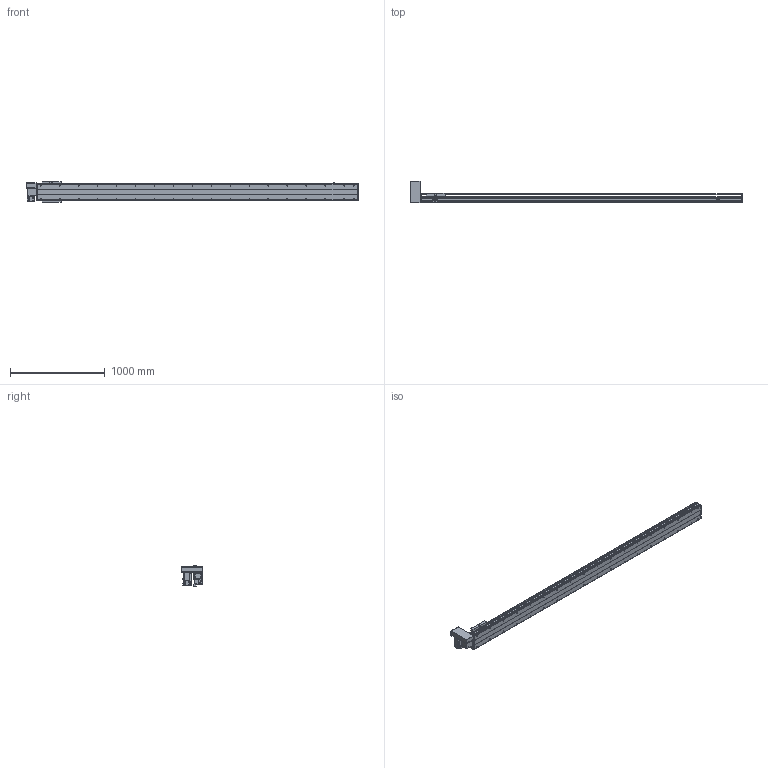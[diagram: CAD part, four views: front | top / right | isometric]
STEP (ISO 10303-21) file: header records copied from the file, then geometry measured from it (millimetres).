
FILE_DESCRIPTION(/* description */ ('STEP AP214'),/* implementation_level */ '2;1');
FILE_NAME(/* name */ 'PBS200-P40-S3000-RU-T75-C1-N(0)',/* time_stamp */ '2022-06-11T09:38:07+02:00',/* author */ ('License CC BY-ND 4.0'),/* organization */ ('CADENAS'),/* preprocessor_version */ 'ST-DEVELOPER v18.102',/* originating_system */ 'PARTsolutions',/* authorisation */ ' ');
FILE_SCHEMA (('AUTOMOTIVE_DESIGN {1 0 10303 214 3 1 1}'));
Length unit declared in the file: millimetre
Products named in the file (7): PBS200-P40-S3000-RU-T75-C1-N(0); PBS200_sensor; PBS200_plant; PBS200_sliser; T75-p1; PBS200T-RU_motors; PBS200-S3000()_body
Assembly tree (8 placements, depth 2):
  PBS200-P40-S3000-RU-T75-C1-N(0)
    PBS200_sensor  x3
    PBS200_plant
    PBS200_sliser
    T75-p1
    PBS200T-RU_motors
    PBS200-S3000()_body
Bounding box: 3500 x 231 x 221 mm (x, y, z)
Volume: 23726001.4 mm3; surface area: 3788692.4 mm2
Topology: 8 solids, 8 shells, 980 faces, 2474 edges, 1608 vertices
Faces by surface type: plane 594, cylinder 318, cone 68
Full cylindrical faces by diameter (mm): 2.459 x6, 3.242 x4, 4.5 x6, 4.917 x4, 5 x6, 6 x7, 6.6 x8, 6.647 x40, 8 x6, 10 x4, 12 x8, 38 x2, 40 x1, 70 x1
Entity records: 25781 total; most frequent: DIRECTION 4567, CARTESIAN_POINT 4372, ORIENTED_EDGE 4102, EDGE_CURVE 2051, AXIS2_PLACEMENT_3D 1627, VERTEX_POINT 1432, LINE 1313, VECTOR 1313
